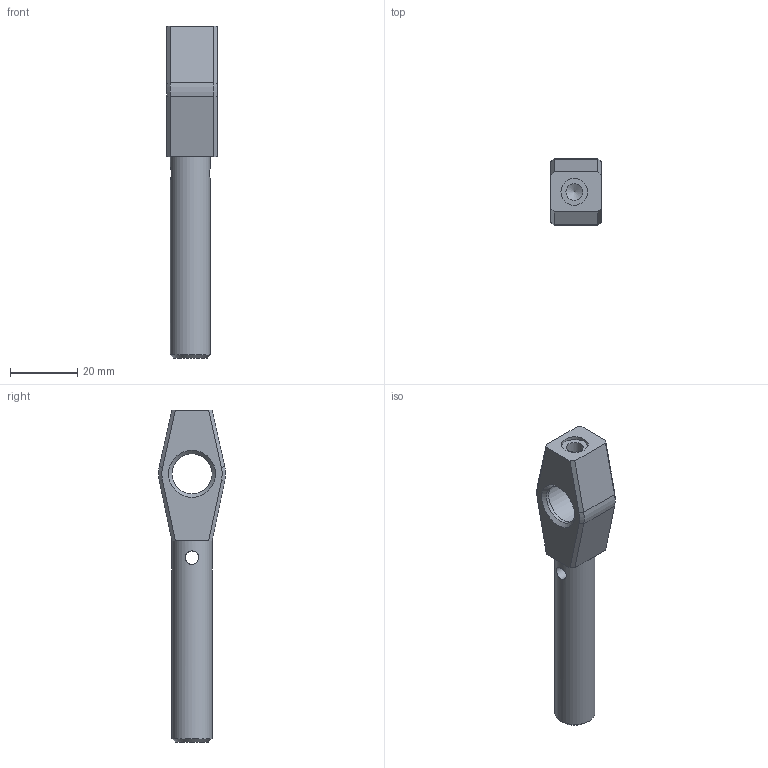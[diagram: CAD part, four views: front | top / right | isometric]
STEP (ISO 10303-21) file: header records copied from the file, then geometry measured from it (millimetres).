
FILE_DESCRIPTION((''),'2;1');
FILE_NAME('Z:\2能登便\3Dﾓﾃﾞﾙ（角屋さま野中さま⇒川島）\2010年5月分\LHF-15S\LHF-15S.stp','2010-08-03T10:53:36',('okegawa'),(''),'Autodesk Inventor 2008','Autodesk Inventor 2008','');
FILE_SCHEMA(('AUTOMOTIVE_DESIGN { 1 0 10303 214 1 1 1 1 }'));
Length unit declared in the file: millimetre
Products named in the file (1): LHF15S-M02-10001-S01
Bounding box: 15 x 19.96 x 99.05 mm (x, y, z)
Volume: 13408.5 mm3; surface area: 5944.4 mm2
Topology: 1 solids, 3 shells, 56 faces, 130 edges, 82 vertices
Faces by surface type: plane 32, cylinder 9, bspline 9, cone 6
Full cylindrical faces by diameter (mm): 4 x1, 5 x1, 12 x2, 15 x1
Entity records: 1701 total; most frequent: CARTESIAN_POINT 491, DIRECTION 244, ORIENTED_EDGE 220, EDGE_CURVE 110, AXIS2_PLACEMENT_3D 89, EDGE_LOOP 78, VERTEX_POINT 76, VECTOR 66
